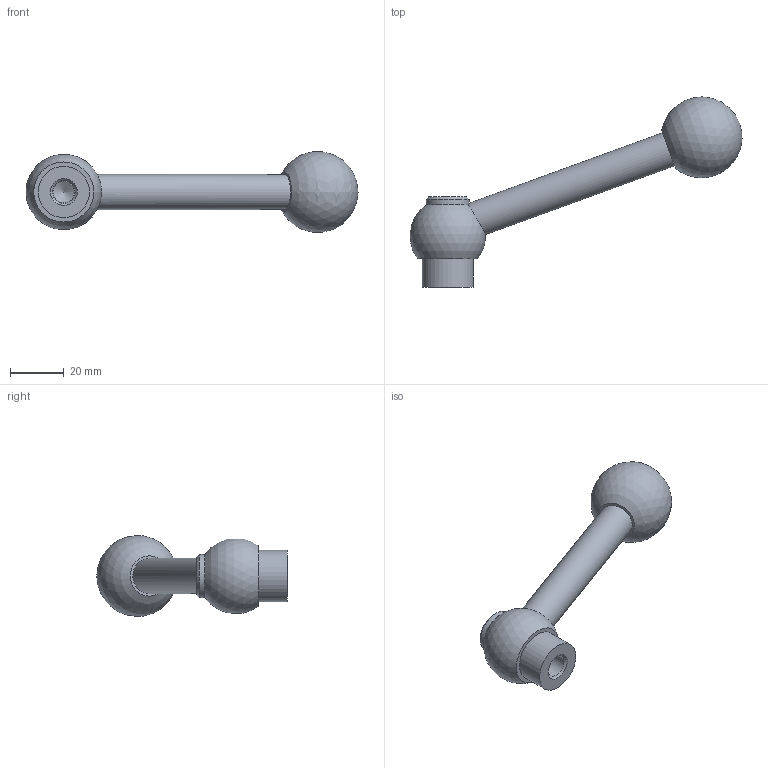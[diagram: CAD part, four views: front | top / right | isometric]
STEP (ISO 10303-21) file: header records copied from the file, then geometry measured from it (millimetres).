
FILE_DESCRIPTION( ( 'STEP AP203' ), '1' );
FILE_NAME( 'C:/Temp/Ganter_Step_05_03_2020/data/2_1/gn_6337_3/gn_6337_3_mb/gn_6337_3_mb_n/Adjustable clamping lever GN 6337.3-28-M10-N.stp', '2020-03-05T11:41:12', ( 'License CC BY-ND 4.0' ), ( 'CADENAS' ), ' ', 'PARTsolutions', ' ' );
FILE_SCHEMA( ( 'CONFIG_CONTROL_DESIGN' ) );
Length unit declared in the file: millimetre
Products named in the file (1): _Adjustable clamping lever GN 6337.3-28-M10-N
Bounding box: 122.98 x 70.49 x 29.7 mm (x, y, z)
Volume: 36386.2 mm3; surface area: 9236 mm2
Topology: 1 solids, 1 shells, 15 faces, 30 edges, 19 vertices
Faces by surface type: cylinder 5, plane 5, cone 3, sphere 2
Full cylindrical faces by diameter (mm): 8 x1, 8.376 x1, 13 x1, 15.969 x1, 19 x1
Entity records: 430 total; most frequent: CARTESIAN_POINT 131, DIRECTION 58, ORIENTED_EDGE 30, AXIS2_PLACEMENT_3D 29, EDGE_LOOP 27, FACE_OUTER_BOUND 21, VERTEX_POINT 16, ADVANCED_FACE 15
